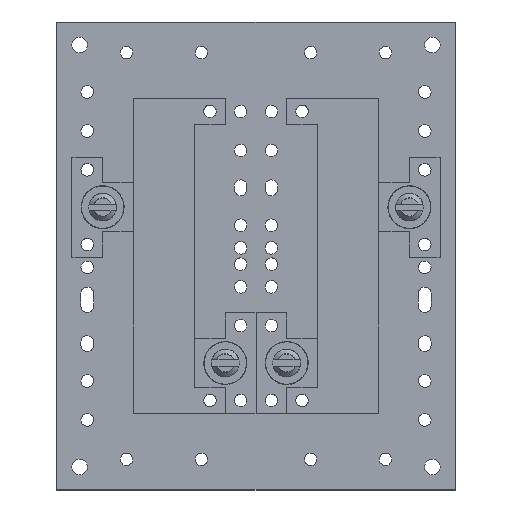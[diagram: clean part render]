
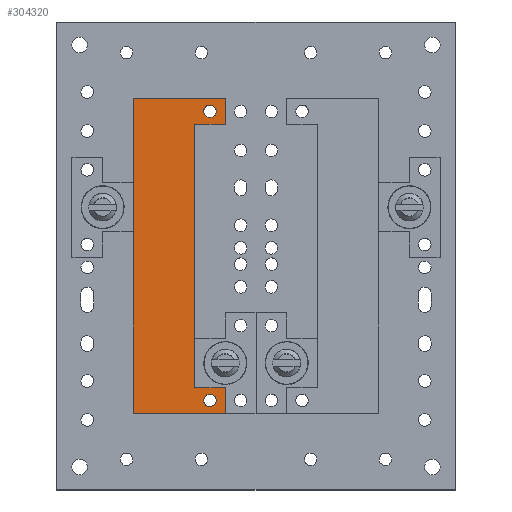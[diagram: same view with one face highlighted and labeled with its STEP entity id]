
A CAD part, top view. The second image highlights one B-rep face of the part: STEP entity #304320.
In plain terms, the highlighted free-form (B-spline) face has degree [1, 1] with [2, 2] control points.
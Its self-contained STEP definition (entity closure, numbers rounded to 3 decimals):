
#301790 = CARTESIAN_POINT ('', (20., 0., 13.));
#301800 = VERTEX_POINT ('', #301790);
#301930 = CARTESIAN_POINT ('', (20., 8.35, 13.));
#301940 = VERTEX_POINT ('', #301930);
#302000 = CARTESIAN_POINT ('', (20., 8.35, 13.));
#302010 = CARTESIAN_POINT ('', (20., 0., 13.));
#302020 = B_SPLINE_CURVE_WITH_KNOTS ('', 1, (#302000, #302010), .UNSPECIFIED., .F., .U., (2, 2), (144.2, 152.55), .UNSPECIFIED.);
#302030 = EDGE_CURVE ('', #301940, #301800, #302020, .T.);
#302150 = CARTESIAN_POINT ('', (-10., 0., 13.));
#302160 = VERTEX_POINT ('', #302150);
#302280 = CARTESIAN_POINT ('', (20., 0., 13.));
#302290 = CARTESIAN_POINT ('', (-10., 0., 13.));
#302300 = B_SPLINE_CURVE_WITH_KNOTS ('', 1, (#302280, #302290), .UNSPECIFIED., .F., .U., (2, 2), (152.55, 182.55), .UNSPECIFIED.);
#302310 = EDGE_CURVE ('', #301800, #302160, #302300, .T.);
#302430 = CARTESIAN_POINT ('', (-10., 102.55, 13.));
#302440 = VERTEX_POINT ('', #302430);
#302560 = CARTESIAN_POINT ('', (-10., 0., 13.));
#302570 = CARTESIAN_POINT ('', (-10., 102.55, 13.));
#302580 = B_SPLINE_CURVE_WITH_KNOTS ('', 1, (#302560, #302570), .UNSPECIFIED., .F., .U., (2, 2), (182.55, 285.1), .UNSPECIFIED.);
#302590 = EDGE_CURVE ('', #302160, #302440, #302580, .T.);
#302710 = CARTESIAN_POINT ('', (20., 102.55, 13.));
#302720 = VERTEX_POINT ('', #302710);
#302840 = CARTESIAN_POINT ('', (-10., 102.55, 13.));
#302850 = CARTESIAN_POINT ('', (20., 102.55, 13.));
#302860 = B_SPLINE_CURVE_WITH_KNOTS ('', 1, (#302840, #302850), .UNSPECIFIED., .F., .U., (2, 2), (0., 30.), .UNSPECIFIED.);
#302870 = EDGE_CURVE ('', #302440, #302720, #302860, .T.);
#302990 = CARTESIAN_POINT ('', (20., 94.2, 13.));
#303000 = VERTEX_POINT ('', #302990);
#303120 = CARTESIAN_POINT ('', (20., 102.55, 13.));
#303130 = CARTESIAN_POINT ('', (20., 94.2, 13.));
#303140 = B_SPLINE_CURVE_WITH_KNOTS ('', 1, (#303120, #303130), .UNSPECIFIED., .F., .U., (2, 2), (30., 38.35), .UNSPECIFIED.);
#303150 = EDGE_CURVE ('', #302720, #303000, #303140, .T.);
#303270 = CARTESIAN_POINT ('', (10., 94.2, 13.));
#303280 = VERTEX_POINT ('', #303270);
#303400 = CARTESIAN_POINT ('', (20., 94.2, 13.));
#303410 = CARTESIAN_POINT ('', (10., 94.2, 13.));
#303420 = B_SPLINE_CURVE_WITH_KNOTS ('', 1, (#303400, #303410), .UNSPECIFIED., .F., .U., (2, 2), (38.35, 48.35), .UNSPECIFIED.);
#303430 = EDGE_CURVE ('', #303000, #303280, #303420, .T.);
#303550 = CARTESIAN_POINT ('', (10., 8.35, 13.));
#303560 = VERTEX_POINT ('', #303550);
#303680 = CARTESIAN_POINT ('', (10., 94.2, 13.));
#303690 = CARTESIAN_POINT ('', (10., 8.35, 13.));
#303700 = B_SPLINE_CURVE_WITH_KNOTS ('', 1, (#303680, #303690), .UNSPECIFIED., .F., .U., (2, 2), (48.35, 134.2), .UNSPECIFIED.);
#303710 = EDGE_CURVE ('', #303280, #303560, #303700, .T.);
#303810 = ORIENTED_EDGE ('', *, *, #303430, .F.);
#303820 = ORIENTED_EDGE ('', *, *, #303150, .F.);
#303830 = ORIENTED_EDGE ('', *, *, #302870, .F.);
#303840 = ORIENTED_EDGE ('', *, *, #302590, .F.);
#303850 = ORIENTED_EDGE ('', *, *, #302310, .F.);
#303860 = ORIENTED_EDGE ('', *, *, #302030, .F.);
#303870 = CARTESIAN_POINT ('', (10., 8.35, 13.));
#303880 = CARTESIAN_POINT ('', (20., 8.35, 13.));
#303890 = B_SPLINE_CURVE_WITH_KNOTS ('', 1, (#303870, #303880), .UNSPECIFIED., .F., .U., (2, 2), (134.2, 144.2), .UNSPECIFIED.);
#303900 = EDGE_CURVE ('', #303560, #301940, #303890, .T.);
#303910 = ORIENTED_EDGE ('', *, *, #303900, .F.);
#303920 = ORIENTED_EDGE ('', *, *, #303710, .F.);
#303930 = EDGE_LOOP ('', (#303810, #303820, #303830, #303840, #303850, #303860, #303910, #303920));
#303940 = FACE_OUTER_BOUND ('', #303930, .T.);
#303950 = CARTESIAN_POINT ('', (17.05, 98.375, 13.));
#303960 = VERTEX_POINT ('', #303950);
#303970 = CARTESIAN_POINT ('', (17.05, 98.375, 13.));
#303980 = CARTESIAN_POINT ('', (17.05, 100.425, 13.));
#303990 = CARTESIAN_POINT ('', (15., 100.425, 13.));
#304000 = CARTESIAN_POINT ('', (12.95, 100.425, 13.));
#304010 = CARTESIAN_POINT ('', (12.95, 98.375, 13.));
#304020 = CARTESIAN_POINT ('', (12.95, 96.325, 13.));
#304030 = CARTESIAN_POINT ('', (15., 96.325, 13.));
#304040 = CARTESIAN_POINT ('', (17.05, 96.325, 13.));
#304050 = CARTESIAN_POINT ('', (17.05, 98.375, 13.));
#304060 = (
   BOUNDED_CURVE ()
   B_SPLINE_CURVE (2, (#303970, #303980, #303990, #304000, #304010, #304020, #304030, #304040, #304050), .UNSPECIFIED., .T., .U.)
   B_SPLINE_CURVE_WITH_KNOTS ((3, 2, 2, 2, 3), (0., 0.25, 0.5, 0.75, 1.), .UNSPECIFIED.)
   CURVE ()
   GEOMETRIC_REPRESENTATION_ITEM ()
   RATIONAL_B_SPLINE_CURVE ((1., 0.707, 1., 0.707, 1., 0.707, 1., 0.707, 1.))
   REPRESENTATION_ITEM ('')
);
#304070 = EDGE_CURVE ('', #303960, #303960, #304060, .T.);
#304080 = ORIENTED_EDGE ('', *, *, #304070, .F.);
#304090 = EDGE_LOOP ('', (#304080));
#304100 = FACE_BOUND ('', #304090, .T.);
#304110 = CARTESIAN_POINT ('', (17.05, 4.175, 13.));
#304120 = VERTEX_POINT ('', #304110);
#304130 = CARTESIAN_POINT ('', (17.05, 4.175, 13.));
#304140 = CARTESIAN_POINT ('', (17.05, 2.125, 13.));
#304150 = CARTESIAN_POINT ('', (15., 2.125, 13.));
#304160 = CARTESIAN_POINT ('', (12.95, 2.125, 13.));
#304170 = CARTESIAN_POINT ('', (12.95, 4.175, 13.));
#304180 = CARTESIAN_POINT ('', (12.95, 6.225, 13.));
#304190 = CARTESIAN_POINT ('', (15., 6.225, 13.));
#304200 = CARTESIAN_POINT ('', (17.05, 6.225, 13.));
#304210 = CARTESIAN_POINT ('', (17.05, 4.175, 13.));
#304220 = (
   BOUNDED_CURVE ()
   B_SPLINE_CURVE (2, (#304130, #304140, #304150, #304160, #304170, #304180, #304190, #304200, #304210), .UNSPECIFIED., .T., .U.)
   B_SPLINE_CURVE_WITH_KNOTS ((3, 2, 2, 2, 3), (0., 0.25, 0.5, 0.75, 1.), .UNSPECIFIED.)
   CURVE ()
   GEOMETRIC_REPRESENTATION_ITEM ()
   RATIONAL_B_SPLINE_CURVE ((1., 0.707, 1., 0.707, 1., 0.707, 1., 0.707, 1.))
   REPRESENTATION_ITEM ('')
);
#304230 = EDGE_CURVE ('', #304120, #304120, #304220, .T.);
#304240 = ORIENTED_EDGE ('', *, *, #304230, .T.);
#304250 = EDGE_LOOP ('', (#304240));
#304260 = FACE_BOUND ('', #304250, .T.);
#304270 = CARTESIAN_POINT ('', (-102.19, -60.915, 13.));
#304280 = CARTESIAN_POINT ('', (-102.19, 163.465, 13.));
#304290 = CARTESIAN_POINT ('', (122.19, -60.915, 13.));
#304300 = CARTESIAN_POINT ('', (122.19, 163.465, 13.));
#304310 = B_SPLINE_SURFACE_WITH_KNOTS ('', 1, 1, ((#304270, #304280), (#304290, #304300)), .UNSPECIFIED., .F., .F., .U., (2, 2), (2, 2), (0., 1.), (0., 1.), .UNSPECIFIED.);
#304320 = ADVANCED_FACE ('', (#303940, #304100, #304260), #304310, .T.);
